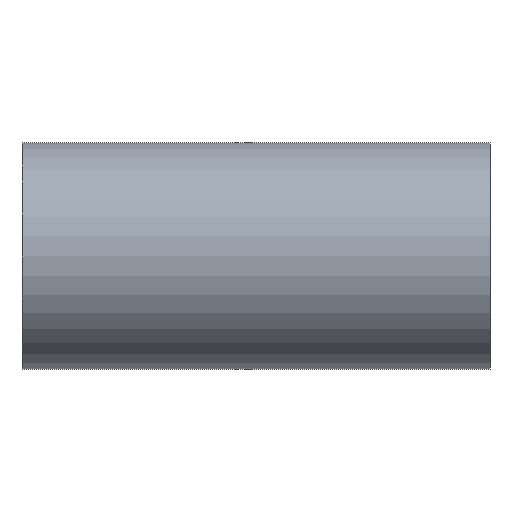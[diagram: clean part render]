
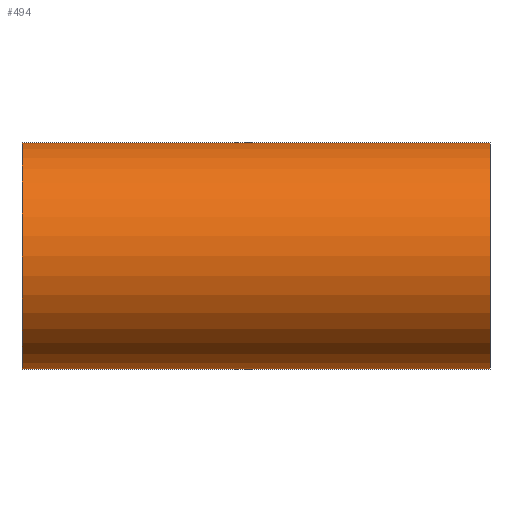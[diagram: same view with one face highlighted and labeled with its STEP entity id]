
A CAD part, front view. The second image highlights one B-rep face of the part: STEP entity #494.
In plain terms, the highlighted cylindrical face has radius 50.8 mm (diameter 101.6 mm), a partial arc.
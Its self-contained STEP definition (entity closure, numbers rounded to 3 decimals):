
#12 = AXIS2_PLACEMENT_3D ( 'NONE', #162, #164, #167 ) ;
#32 = CYLINDRICAL_SURFACE ( 'NONE', #61, 50.8 ) ;
#52 = VERTEX_POINT ( 'NONE', #222 ) ;
#61 = AXIS2_PLACEMENT_3D ( 'NONE', #339, #324, #331 ) ;
#78 = CARTESIAN_POINT ( 'NONE',  ( -104.8, 0., 50.8 ) ) ;
#80 = FACE_OUTER_BOUND ( 'NONE', #266, .T. ) ;
#87 = VECTOR ( 'NONE', #328, 1000. ) ;
#91 = DIRECTION ( 'NONE',  ( 1., 0., 0. ) ) ;
#100 = EDGE_CURVE ( 'NONE', #52, #293, #451, .T. ) ;
#104 = ORIENTED_EDGE ( 'NONE', *, *, #398, .F. ) ;
#141 = CARTESIAN_POINT ( 'NONE',  ( 104.8, 0., -50.8 ) ) ;
#158 = DIRECTION ( 'NONE',  ( 1., 0., 0. ) ) ;
#162 = CARTESIAN_POINT ( 'NONE',  ( 104.8, 0., 0. ) ) ;
#164 = DIRECTION ( 'NONE',  ( -1., 0., 0. ) ) ;
#165 = CIRCLE ( 'NONE', #12, 50.8 ) ;
#167 = DIRECTION ( 'NONE',  ( 0., 0., -1. ) ) ;
#209 = CARTESIAN_POINT ( 'NONE',  ( 104.8, 0., 50.8 ) ) ;
#215 = CARTESIAN_POINT ( 'NONE',  ( -104.8, 0., -50.8 ) ) ;
#222 = CARTESIAN_POINT ( 'NONE',  ( -104.8, 0., 50.8 ) ) ;
#252 = AXIS2_PLACEMENT_3D ( 'NONE', #417, #158, #449 ) ;
#266 = EDGE_LOOP ( 'NONE', ( #104, #383, #464, #474 ) ) ;
#293 = VERTEX_POINT ( 'NONE', #483 ) ;
#321 = VECTOR ( 'NONE', #91, 1000. ) ;
#324 = DIRECTION ( 'NONE',  ( 1., 0., 0. ) ) ;
#328 = DIRECTION ( 'NONE',  ( 1., 0., 0. ) ) ;
#329 = LINE ( 'NONE', #215, #87 ) ;
#331 = DIRECTION ( 'NONE',  ( 0., 0., -1. ) ) ;
#339 = CARTESIAN_POINT ( 'NONE',  ( -104.8, 0., 0. ) ) ;
#350 = LINE ( 'NONE', #78, #321 ) ;
#383 = ORIENTED_EDGE ( 'NONE', *, *, #100, .T. ) ;
#398 = EDGE_CURVE ( 'NONE', #52, #479, #350, .T. ) ;
#417 = CARTESIAN_POINT ( 'NONE',  ( -104.8, 0., 0. ) ) ;
#436 = VERTEX_POINT ( 'NONE', #141 ) ;
#444 = EDGE_CURVE ( 'NONE', #436, #479, #165, .T. ) ;
#449 = DIRECTION ( 'NONE',  ( 0., 0., -1. ) ) ;
#451 = CIRCLE ( 'NONE', #252, 50.8 ) ;
#464 = ORIENTED_EDGE ( 'NONE', *, *, #486, .T. ) ;
#474 = ORIENTED_EDGE ( 'NONE', *, *, #444, .T. ) ;
#479 = VERTEX_POINT ( 'NONE', #209 ) ;
#483 = CARTESIAN_POINT ( 'NONE',  ( -104.8, 0., -50.8 ) ) ;
#486 = EDGE_CURVE ( 'NONE', #293, #436, #329, .T. ) ;
#494 = ADVANCED_FACE ( 'NONE', ( #80 ), #32, .T. ) ;
